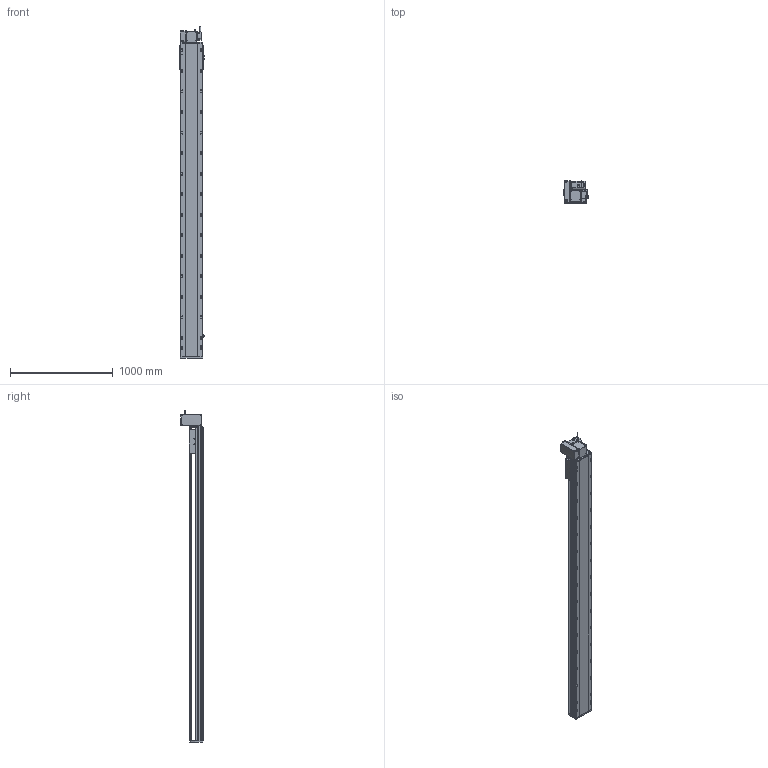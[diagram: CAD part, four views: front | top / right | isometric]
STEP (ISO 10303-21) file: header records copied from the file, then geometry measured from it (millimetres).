
FILE_DESCRIPTION (( 'STEP AP214' ), '1' );
FILE_NAME ('RTB22S-XX-2700-LW-M75-C4.STEP', '2025-12-12T07:03:22', ( '' ), ( '' ), 'SwSTEP 2.0', 'SolidWorks 2018', '' );
FILE_SCHEMA (( 'AUTOMOTIVE_DESIGN' ));
Length unit declared in the file: millimetre
Products named in the file (14): RTB22S-GY-018P^RTB22S-LW-々湍釱蚾饜_RTB22S-XX-XX-LW-M75-C4; RTB22S-L-011菁釱^RTB22S-XX-XX-LW-M75-C4; RTB22S-L-004賑釱^RTB22S-XX-XX-LW-M75-C4; RTB22S-XX-2700-LW-M75-C4; RTH22-GY-013外置感应片^RTB22S-XX-XX-LW-M75-C4; 750W萇儂^RTB22S-XX-XX-LW-M75-C4; RTB22S-GY-005P^RTB22S-LW-々湍釱蚾饜_RTB22S-XX-XX-LW-M75-C4; RTB22S-GY-014--々湍釱^RTB22S-LW-々湍釱蚾饜_RTB22S-XX-XX-LW-M75-C4; RTB22S-GY-007奻裔^RTB22S-XX-XX-LW-M75-C4; RTB22S-LW-々湍釱蚾饜^RTB22S-XX-XX-LW-M75-C4; RTB22S-GY-008-M75--萇儂啣^RTB22S-LW-々湍釱蚾饜_RTB22S-XX-XX-LW-M75-C4; RTB22S-GY-001耜裔^RTB22S-XX-XX-LW-M75-C4; OMRON EE-SX672 传感器^RTB22S-XX-XX-LW-M75-C4; RTB22S-GY-017P^RTB22S-LW-々湍釱蚾饜_RTB22S-XX-XX-LW-M75-C4
Assembly tree (16 placements, depth 3):
  RTB22S-XX-2700-LW-M75-C4
    RTB22S-L-011菁釱^RTB22S-XX-XX-LW-M75-C4
    RTB22S-GY-001耜裔^RTB22S-XX-XX-LW-M75-C4
    750W萇儂^RTB22S-XX-XX-LW-M75-C4
    RTB22S-GY-007奻裔^RTB22S-XX-XX-LW-M75-C4
    RTB22S-L-004賑釱^RTB22S-XX-XX-LW-M75-C4
    RTH22-GY-013外置感应片^RTB22S-XX-XX-LW-M75-C4
    OMRON EE-SX672 传感器^RTB22S-XX-XX-LW-M75-C4  x3
    RTB22S-LW-々湍釱蚾饜^RTB22S-XX-XX-LW-M75-C4
      RTB22S-GY-014--々湍釱^RTB22S-LW-々湍釱蚾饜_RTB22S-XX-XX-LW-M75-C4
      RTB22S-GY-017P^RTB22S-LW-々湍釱蚾饜_RTB22S-XX-XX-LW-M75-C4  x2
      RTB22S-GY-005P^RTB22S-LW-々湍釱蚾饜_RTB22S-XX-XX-LW-M75-C4
      RTB22S-GY-008-M75--萇儂啣^RTB22S-LW-々湍釱蚾饜_RTB22S-XX-XX-LW-M75-C4
      RTB22S-GY-018P^RTB22S-LW-々湍釱蚾饜_RTB22S-XX-XX-LW-M75-C4
Bounding box: 238.5 x 215.5 x 3232.2 mm (x, y, z)
Volume: 41092634.5 mm3; surface area: 4197294 mm2
Topology: 15 solids, 15 shells, 2127 faces, 5786 edges, 3692 vertices
Faces by surface type: plane 931, cylinder 718, bspline 296, cone 170, sphere 8, torus 4
Entity records: 58032 total; most frequent: CARTESIAN_POINT 16356, ORIENTED_EDGE 8296, DIRECTION 8122, EDGE_CURVE 4148, AXIS2_PLACEMENT_3D 2918, VERTEX_POINT 2696, LINE 2286, VECTOR 2286
